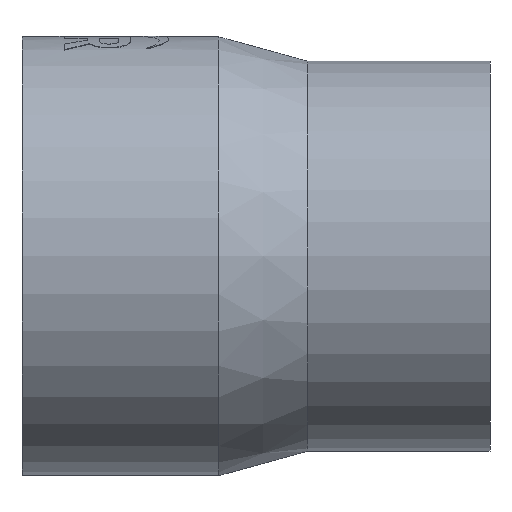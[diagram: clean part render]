
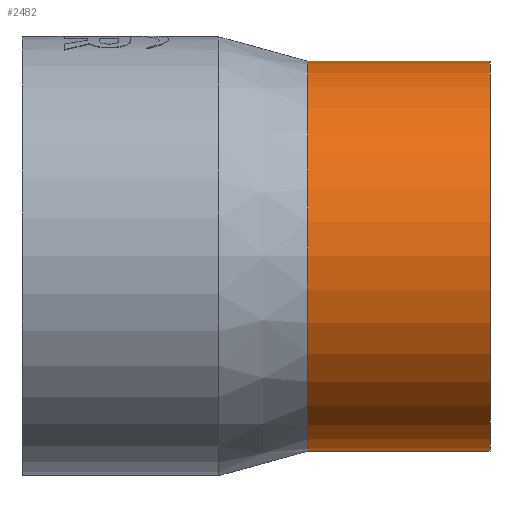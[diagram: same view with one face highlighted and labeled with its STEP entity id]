
A CAD part, front view. The second image highlights one B-rep face of the part: STEP entity #2482.
In plain terms, the highlighted cylindrical face has radius 200 mm (diameter 400 mm), a partial arc.
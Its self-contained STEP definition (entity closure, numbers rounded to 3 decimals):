
#25 = VERTEX_POINT ( 'NONE', #2832 ) ;
#207 = VERTEX_POINT ( 'NONE', #2254 ) ;
#371 = EDGE_LOOP ( 'NONE', ( #3364, #3370, #3376, #3396 ) ) ;
#409 = DIRECTION ( 'NONE',  ( 0., 0., 1. ) ) ;
#781 = CARTESIAN_POINT ( 'NONE',  ( 480., 0., 0. ) ) ;
#788 = DIRECTION ( 'NONE',  ( 0., 0., 1. ) ) ;
#847 = CIRCLE ( 'NONE', #1221, 200. ) ;
#935 = DIRECTION ( 'NONE',  ( 0., 0., 1. ) ) ;
#952 = CIRCLE ( 'NONE', #1200, 200. ) ;
#1005 = CARTESIAN_POINT ( 'NONE',  ( -0.3, 0., 0. ) ) ;
#1108 = EDGE_CURVE ( 'NONE', #25, #207, #1880, .T. ) ;
#1123 = DIRECTION ( 'NONE',  ( -1., 0., 0. ) ) ;
#1193 = CARTESIAN_POINT ( 'NONE',  ( 480., 0., 200. ) ) ;
#1199 = EDGE_CURVE ( 'NONE', #2124, #3110, #1874, .T. ) ;
#1200 = AXIS2_PLACEMENT_3D ( 'NONE', #781, #3731, #409 ) ;
#1221 = AXIS2_PLACEMENT_3D ( 'NONE', #2475, #3162, #788 ) ;
#1410 = DIRECTION ( 'NONE',  ( -1., 0., 0. ) ) ;
#1413 = CARTESIAN_POINT ( 'NONE',  ( -0.3, 0., 200. ) ) ;
#1480 = DIRECTION ( 'NONE',  ( -1., 0., 0. ) ) ;
#1754 = CARTESIAN_POINT ( 'NONE',  ( -0.3, 0., -200. ) ) ;
#1762 = VECTOR ( 'NONE', #1410, 1000. ) ;
#1811 = FACE_OUTER_BOUND ( 'NONE', #371, .T. ) ;
#1817 = VECTOR ( 'NONE', #1480, 1000. ) ;
#1872 = AXIS2_PLACEMENT_3D ( 'NONE', #1005, #1123, #935 ) ;
#1874 = LINE ( 'NONE', #1413, #1762 ) ;
#1880 = LINE ( 'NONE', #1754, #1817 ) ;
#2124 = VERTEX_POINT ( 'NONE', #1193 ) ;
#2254 = CARTESIAN_POINT ( 'NONE',  ( 293., 0., -200. ) ) ;
#2475 = CARTESIAN_POINT ( 'NONE',  ( 293., 0., 0. ) ) ;
#2482 = ADVANCED_FACE ( 'NONE', ( #1811 ), #2574, .T. ) ;
#2574 = CYLINDRICAL_SURFACE ( 'NONE', #1872, 200. ) ;
#2832 = CARTESIAN_POINT ( 'NONE',  ( 480., 0., -200. ) ) ;
#3110 = VERTEX_POINT ( 'NONE', #3333 ) ;
#3162 = DIRECTION ( 'NONE',  ( -1., 0., 0. ) ) ;
#3302 = EDGE_CURVE ( 'NONE', #207, #3110, #847, .T. ) ;
#3326 = EDGE_CURVE ( 'NONE', #25, #2124, #952, .T. ) ;
#3333 = CARTESIAN_POINT ( 'NONE',  ( 293., 0., 200. ) ) ;
#3364 = ORIENTED_EDGE ( 'NONE', *, *, #1108, .F. ) ;
#3370 = ORIENTED_EDGE ( 'NONE', *, *, #3326, .T. ) ;
#3376 = ORIENTED_EDGE ( 'NONE', *, *, #1199, .T. ) ;
#3396 = ORIENTED_EDGE ( 'NONE', *, *, #3302, .F. ) ;
#3731 = DIRECTION ( 'NONE',  ( -1., 0., 0. ) ) ;
